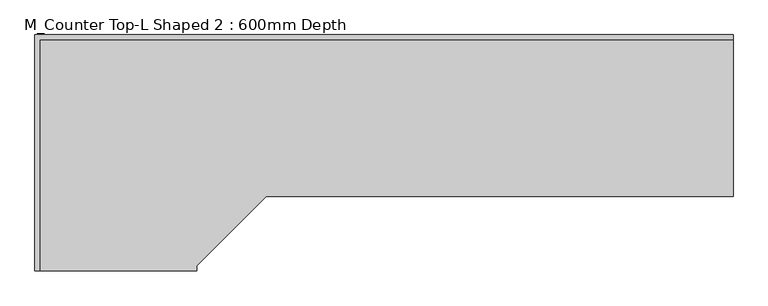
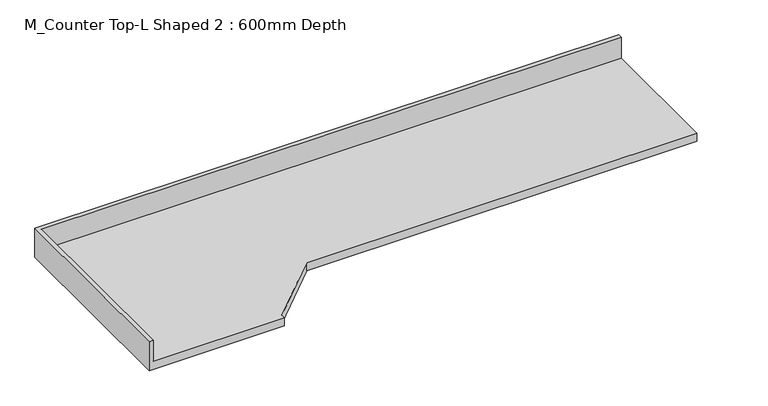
"""IFC4 building model written with IfcOpenShell, lengths in millimetres: furniture geometry, M_Counter Top-L Shaped 2 : 600mm Depth."""

import ifcopenshell
import ifcopenshell.guid

model = None  # the IFC model being written
_history = None  # IfcOwnerHistory: only IFC2X3 demands one
_inside = {}  # id of a spatial element -> (the spatial element, [elements in it])
_under = {}  # id of a project, library or spatial element -> (it, [spatial elements below it])
_declared = {}  # id of a project -> (the project, [libraries it declares])
_typed = {}  # id of a type object -> (the type object, [elements of that type])
_made_of = {}  # id of a material, layer set ... -> (it, [elements and type objects made of it])


def new_model(schema):
    """Start an empty IFC model of exactly this schema.

    Asked for "IFC4X3", IfcOpenShell would pick the latest addendum, in which some entities
    have other attributes; the version numbers below select the first issue.
    IFC2X3 requires an IfcOwnerHistory on every rooted entity: one is made here for all.
    """
    global model, _history
    if schema == "IFC4X3":
        model = ifcopenshell.file(schema_version=(4, 3, 0, 0))
    else:
        model = ifcopenshell.file(schema=schema)
    _inside.clear()
    _under.clear()
    _declared.clear()
    _typed.clear()
    _made_of.clear()
    _history = None
    if model.schema == "IFC2X3":
        org = make("IfcOrganization", Name="unknown")
        user = make(
            "IfcPersonAndOrganization",
            ThePerson=make("IfcPerson", FamilyName="unknown"),
            TheOrganization=org,
        )
        app = make(
            "IfcApplication",
            ApplicationDeveloper=org,
            Version="unknown",
            ApplicationFullName="unknown",
            ApplicationIdentifier="unknown",
        )
        _history = make(
            "IfcOwnerHistory",
            OwningUser=user,
            OwningApplication=app,
            ChangeAction="ADDED",
            CreationDate=0,
        )
    return model


def make(cls, **values):
    """One entity of the class cls with the attributes given. An attribute that is None is left unset."""
    return model.create_entity(
        cls, **{name: value for name, value in values.items() if value is not None}
    )


def rooted(cls, **values):
    """An entity with a GlobalId (a new one), such as an element, a storey or a relation."""
    return make(cls, GlobalId=ifcopenshell.guid.new(), OwnerHistory=_history, **values)


def si_unit(unit_type, name, prefix=None):
    """IfcSIUnit, for example si_unit("LENGTHUNIT", "METRE", prefix="MILLI")."""
    return make("IfcSIUnit", UnitType=unit_type, Prefix=prefix, Name=name)


def assignment(units):
    """IfcUnitAssignment: the units of a project."""
    return None if units is None else make("IfcUnitAssignment", Units=units)


def point(xyz):
    """IfcCartesianPoint."""
    return None if xyz is None else make("IfcCartesianPoint", Coordinates=xyz)


def direction(xyz):
    """IfcDirection."""
    return None if xyz is None else make("IfcDirection", DirectionRatios=xyz)


def frame(location, z_axis=None, x_axis=None):
    """IfcAxis2Placement3D, a coordinate frame: its origin and axes. An axis left out is left unset."""
    return make(
        "IfcAxis2Placement3D",
        Location=point(location),
        Axis=direction(z_axis),
        RefDirection=direction(x_axis),
    )


def origin():
    """The frame at (0, 0, 0) with its axes left unset."""
    return frame((0.0, 0.0, 0.0))


def place(relative_to, where):
    """IfcLocalPlacement: puts the frame where relative to a parent placement (None: the world)."""
    return make(
        "IfcLocalPlacement", PlacementRelTo=relative_to, RelativePlacement=where
    )


def context(
    kind, dimensions, precision=None, world=None, true_north=None, identifier=None
):
    """IfcGeometricRepresentationContext, for example the 3D "Model" context."""
    return make(
        "IfcGeometricRepresentationContext",
        ContextIdentifier=identifier,
        ContextType=kind,
        CoordinateSpaceDimension=dimensions,
        Precision=precision,
        WorldCoordinateSystem=world,
        TrueNorth=true_north,
    )


def project(units=None, contexts=None):
    """IfcProject with its units and contexts."""
    return rooted(
        "IfcProject",
        Name="project",
        RepresentationContexts=contexts,
        UnitsInContext=assignment(units),
    )


def spatial(cls, under=None, at=None, **own):
    """A site, building, storey or space (cls), placed at a placement, below another one or the project."""
    s = rooted(cls, ObjectPlacement=at, **own)
    if under is not None:
        _under.setdefault(under.id(), (under, []))[1].append(s)
    return s


def faces_of(points, faces, orient=None, outer=None):
    """IfcFace entities. A face is a list of loops; a loop is a list of indices into points, from 0.

    orient and outer hold one flag for each loop. By default every Orientation is true, the
    first loop of a face is its IfcFaceOuterBound and the others are IfcFaceBound.
    """
    made = []
    for i, loops in enumerate(faces):
        bounds = []
        for j, loop in enumerate(loops):
            is_outer = j == 0 if outer is None else outer[i][j]
            bounds.append(
                make(
                    "IfcFaceOuterBound" if is_outer else "IfcFaceBound",
                    Bound=make("IfcPolyLoop", Polygon=[points[k] for k in loop]),
                    Orientation=True if orient is None else orient[i][j],
                )
            )
        made.append(make("IfcFace", Bounds=bounds))
    return made


def faceted_brep(points, faces, orient=None, outer=None, voids=None):
    """IfcFacetedBrep: a solid bounded by flat faces; with voids (closed shells), ...WithVoids."""
    shared = [point(p) for p in points]
    hull = make("IfcClosedShell", CfsFaces=faces_of(shared, faces, orient, outer))
    if voids is None:
        return make("IfcFacetedBrep", Outer=hull)
    return make(
        "IfcFacetedBrepWithVoids",
        Outer=hull,
        Voids=[
            make(cls, CfsFaces=faces_of(shared, fs, o, b)) for cls, fs, o, b in voids
        ],
    )


def shape(context_of_items, identifier, shape_type, items):
    """IfcShapeRepresentation: the items that make up one representation, for example the "Body"."""
    return make(
        "IfcShapeRepresentation",
        ContextOfItems=context_of_items,
        RepresentationIdentifier=identifier,
        RepresentationType=shape_type,
        Items=items,
    )


def source(mapping_origin, context_of_items, identifier, shape_type, items):
    """IfcRepresentationMap: a shape defined once, which mapped items show again and again."""
    return make(
        "IfcRepresentationMap",
        MappingOrigin=mapping_origin,
        MappedRepresentation=shape(context_of_items, identifier, shape_type, items),
    )


def transform(
    local_origin,
    x_axis=None,
    y_axis=None,
    z_axis=None,
    scale=None,
    scale2=None,
    scale3=None,
    uniform=True,
):
    """IfcCartesianTransformationOperator3D, or its non-uniform kind. x_axis, y_axis, z_axis: its Axis1, 2, 3."""
    if uniform:
        return make(
            "IfcCartesianTransformationOperator3D",
            Axis1=direction(x_axis),
            Axis2=direction(y_axis),
            LocalOrigin=point(local_origin),
            Scale=scale,
            Axis3=direction(z_axis),
        )
    return make(
        "IfcCartesianTransformationOperator3DnonUniform",
        Axis1=direction(x_axis),
        Axis2=direction(y_axis),
        LocalOrigin=point(local_origin),
        Scale=scale,
        Axis3=direction(z_axis),
        Scale2=scale2,
        Scale3=scale3,
    )


def mapped(mapping_source, mapping_target):
    """IfcMappedItem: shows the shape of a source again, moved by a transform."""
    return make(
        "IfcMappedItem", MappingSource=mapping_source, MappingTarget=mapping_target
    )


def made_of(thing, what):
    """Note that an element or type object is made of a material, layer set ...; save() writes the relation."""
    if what is not None:
        _made_of.setdefault(what.id(), (what, []))[1].append(thing)
    return thing


def element(
    cls,
    number,
    at=None,
    inside=None,
    cuts=None,
    type_object=None,
    material=None,
    context=None,
    identifier="Body",
    shape_type=None,
    held_by="IfcProductDefinitionShape",
    body=None,
    shapes=None,
    **own,
):
    """One element of the class cls, such as IfcWall. Its Tag is "e" and its number.

    at: its placement. inside: the storey or other place that contains it. cuts: it is an
    opening in that element (IfcRelVoidsElement). A single representation is given by context,
    identifier, shape_type and body (its items); several are given by shapes. held_by: the class
    of the entity that holds the representations. save() writes the other relations.
    """
    e = rooted(cls, Tag="e%d" % number, ObjectPlacement=at, **own)
    if body is not None:
        shapes = [shape(context, identifier, shape_type, body)]
    if shapes is not None:
        e.Representation = make(held_by, Representations=shapes)
    if inside is not None:
        _inside.setdefault(inside.id(), (inside, []))[1].append(e)
    if cuts is not None:
        rooted(
            "IfcRelVoidsElement", RelatingBuildingElement=cuts, RelatedOpeningElement=e
        )
    if type_object is not None:
        _typed.setdefault(type_object.id(), (type_object, []))[1].append(e)
    return made_of(e, material)


def aggregate(whole, parts):
    """IfcRelAggregates: a whole, such as a stair, and the parts it consists of."""
    return rooted("IfcRelAggregates", RelatingObject=whole, RelatedObjects=parts)


def save(model, path):
    """Write the relations noted so far, then the file.

    IfcRelAggregates (storeys below a building ...), IfcRelContainedInSpatialStructure (elements
    in a storey), IfcRelDefinesByType, IfcRelAssociatesMaterial and IfcRelDeclares: one each for
    every whole, place, type object, material and project.
    """
    for whole, parts in _under.values():
        aggregate(whole, parts)
    for where, things in _inside.values():
        rooted(
            "IfcRelContainedInSpatialStructure",
            RelatedElements=things,
            RelatingStructure=where,
        )
    for kind, things in _typed.values():
        rooted("IfcRelDefinesByType", RelatedObjects=things, RelatingType=kind)
    for what, things in _made_of.values():
        rooted("IfcRelAssociatesMaterial", RelatedObjects=things, RelatingMaterial=what)
    for by, libraries in _declared.values():
        rooted("IfcRelDeclares", RelatingContext=by, RelatedDefinitions=libraries)
    model.write(path)


def m_counter_top_l_shaped_2_600mm_depth_18ab53e4(model_context):
    return source(origin(), model_context, "Body", "Brep", [
        faceted_brep([(-575.4622951, -914.2557667, 900.0), (-575.4622951, -895.0, 900.0), (-305.4622951, -625.0, 900.0), (1499.5377049, -625.0, 900.0), (1499.5377049, -19.05, 900.0), (-1181.4122951, -19.05, 900.0), (-1181.4122951, -914.2557667, 900.0), (1499.5377049, 0.0, 860.0), (1499.5377049, -625.0, 860.0), (-305.4622951, -625.0, 860.0), (-575.4622951, -895.0, 860.0), (-575.4622951, -914.2557667, 860.0), (-1200.4622951, -914.2557667, 860.0), (-1200.4622951, 0.0, 860.0), (-1200.4622951, 0.0, 1001.6), (1499.5377049, 0.0, 1001.6), (-1200.4622951, -914.2557667, 1001.6), (-1181.4122951, -914.2557667, 1001.6), (1499.5377049, -19.05, 1001.6), (-1181.4122951, -19.05, 1001.6)], [[[0, 1, 2, 3, 4, 5, 6]], [[7, 8, 9, 10, 11, 12, 13]], [[7, 13, 14, 15]], [[13, 12, 16, 14]], [[16, 12, 11, 0, 6, 17]], [[1, 0, 11, 10]], [[2, 1, 10, 9]], [[3, 2, 9, 8]], [[8, 7, 15, 18, 4, 3]], [[14, 16, 17, 19, 18, 15]], [[4, 18, 19, 5]], [[19, 17, 6, 5]]]),
    ])


if __name__ == "__main__":
    model = new_model("IFC4")
    model_context = context("Model", 3, world=origin())
    ifc_project = project(units=[si_unit("LENGTHUNIT", "METRE", prefix="MILLI")], contexts=[model_context])
    site = spatial("IfcSite", under=ifc_project)
    building = spatial("IfcBuilding", under=site)
    placement = place(None, origin())
    m_counter_top_l_shaped_2_600mm_depth_shape = m_counter_top_l_shaped_2_600mm_depth_18ab53e4(model_context)
    element("IfcFurniture", 1, ObjectType="M_Counter Top-L Shaped 2 : 600mm Depth", at=placement, inside=building, context=model_context, shape_type="MappedRepresentation", body=[
        mapped(m_counter_top_l_shaped_2_600mm_depth_shape, transform((0.0, 0.0, 0.0), x_axis=(1.0, 0.0, 0.0), y_axis=(0.0, 1.0, 0.0), z_axis=(0.0, 0.0, 1.0))),
    ])
    save(model, "model.ifc")
